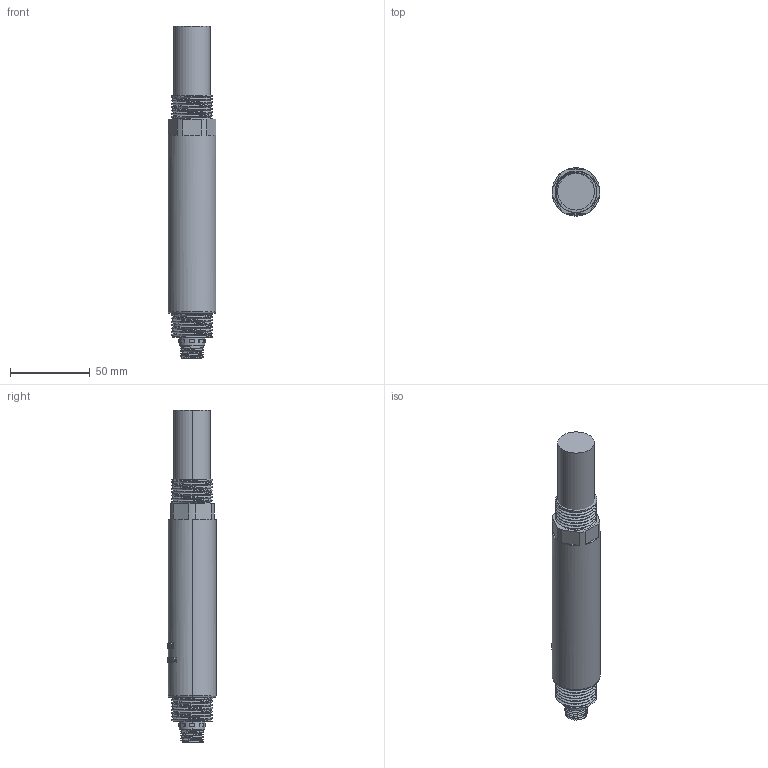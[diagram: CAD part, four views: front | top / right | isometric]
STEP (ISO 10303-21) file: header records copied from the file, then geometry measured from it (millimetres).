
FILE_DESCRIPTION((''),'2;1');
FILE_NAME('ASM0008_ASM','2026-01-23T17:24:44',('28740194'),(''),'CREO PARAMETRIC BY PTC INC, 2024063','CREO PARAMETRIC BY PTC INC, 2024063','');
FILE_SCHEMA(('CONFIG_CONTROL_DESIGN'));
Length unit declared in the file: millimetre
Products named in the file (5): CC; 0001; 222000; 260_ASM; ASM0008_ASM
Assembly tree (5 placements, depth 3):
  ASM0008_ASM
    CC
    260_ASM
      0001
      222000
    222000
Bounding box: 30 x 30.18 x 208 mm (x, y, z)
Volume: 125561.9 mm3; surface area: 24650.7 mm2
Topology: 4 solids, 4 shells, 560 faces, 1557 edges, 1034 vertices
Faces by surface type: bspline 421, cylinder 69, plane 68, torus 2
Entity records: 25955 total; most frequent: CARTESIAN_POINT 15152, ORIENTED_EDGE 2984, EDGE_CURVE 1492, B_SPLINE_CURVE_WITH_KNOTS 1038, VERTEX_POINT 992, DIRECTION 941, EDGE_LOOP 564, FACE_OUTER_BOUND 535
